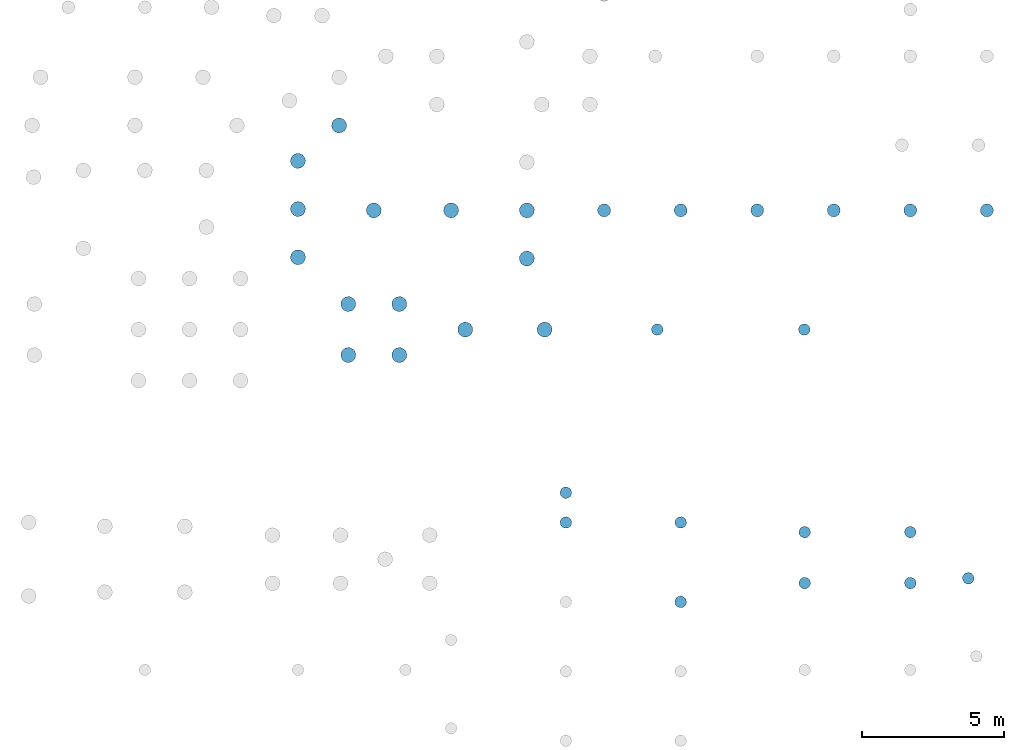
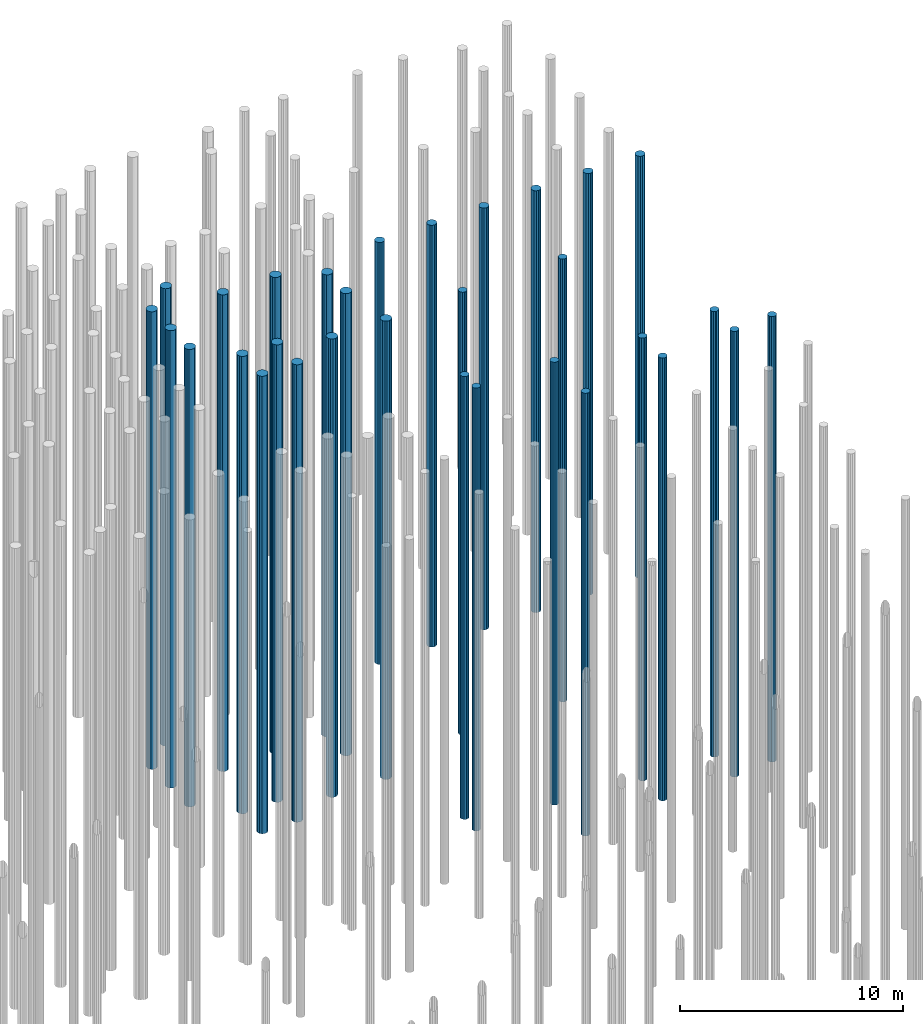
# One storey, part 18 of 20: 31 piles.
"""IFC2X3 building model written with IfcOpenShell, lengths in millimetres."""

from ifc_helpers import new_model, entity, si_unit, converted_unit, derived_unit, direction, frame, origin, place, context, subcontext, project, spatial, polyline, outline, extrude, material, element, save


model = new_model("IFC2X3")

# Units and contexts
model_context = context("Model", 3, precision=0.01, world=origin(), true_north=direction((6.12303176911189e-17, 1.0)))
body_context = subcontext(model_context, "Body", "Model", "MODEL_VIEW")
ifc_project = project(units=[si_unit("LENGTHUNIT", "METRE", prefix="MILLI"), si_unit("AREAUNIT", "SQUARE_METRE"), si_unit("VOLUMEUNIT", "CUBIC_METRE"), converted_unit("PLANEANGLEUNIT", "DEGREE", entity("IfcRatioMeasure", 0.0174532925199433), si_unit("PLANEANGLEUNIT", "RADIAN"), dimensions=[0, 0, 0, 0, 0, 0, 0]), si_unit("MASSUNIT", "GRAM", prefix="KILO"), derived_unit("MASSDENSITYUNIT", [(si_unit("MASSUNIT", "GRAM", prefix="KILO"), 1), (si_unit("LENGTHUNIT", "METRE"), -3)]), si_unit("TIMEUNIT", "SECOND"), si_unit("FREQUENCYUNIT", "HERTZ"), si_unit("THERMODYNAMICTEMPERATUREUNIT", "DEGREE_CELSIUS"), derived_unit("THERMALTRANSMITTANCEUNIT", [(si_unit("MASSUNIT", "GRAM", prefix="KILO"), 1), (si_unit("THERMODYNAMICTEMPERATUREUNIT", "KELVIN"), -1), (si_unit("TIMEUNIT", "SECOND"), -3)]), derived_unit("VOLUMETRICFLOWRATEUNIT", [(si_unit("LENGTHUNIT", "METRE"), 3), (si_unit("TIMEUNIT", "SECOND"), -1)]), si_unit("ELECTRICCURRENTUNIT", "AMPERE"), si_unit("ELECTRICVOLTAGEUNIT", "VOLT"), si_unit("POWERUNIT", "WATT"), si_unit("FORCEUNIT", "NEWTON", prefix="KILO"), si_unit("ILLUMINANCEUNIT", "LUX"), si_unit("LUMINOUSFLUXUNIT", "LUMEN"), si_unit("LUMINOUSINTENSITYUNIT", "CANDELA"), derived_unit("USERDEFINED", [(si_unit("MASSUNIT", "GRAM", prefix="KILO"), -1), (si_unit("LENGTHUNIT", "METRE"), -2), (si_unit("TIMEUNIT", "SECOND"), 3), (si_unit("LUMINOUSFLUXUNIT", "LUMEN"), 1)]), derived_unit("LINEARVELOCITYUNIT", [(si_unit("LENGTHUNIT", "METRE"), 1), (si_unit("TIMEUNIT", "SECOND"), -1)]), si_unit("PRESSUREUNIT", "PASCAL"), derived_unit("USERDEFINED", [(si_unit("LENGTHUNIT", "METRE"), -2), (si_unit("MASSUNIT", "GRAM", prefix="KILO"), 1), (si_unit("TIMEUNIT", "SECOND"), -2)])], contexts=[model_context])

# Site, building, storey
site_placement = place(None, origin())
site = spatial("IfcSite", under=ifc_project, at=site_placement, Name="Default", CompositionType="ELEMENT")
building_placement = place(site_placement, origin())
building = spatial("IfcBuilding", under=site, at=building_placement, Name="niet gebruiken", CompositionType="ELEMENT")
storey_placement = place(building_placement, frame((0.0, 0.0, -4000.0)))
storey = spatial("IfcBuildingStorey", under=building, at=storey_placement, Name="Level t.b.v. palenplan", CompositionType="ELEMENT", Elevation=-4000.0)

# Piles
ifc_material = material(Name="NLRS_f2_beton ihwg")
pile_1_placement = place(storey_placement, origin())
element("IfcPile", 1, at=pile_1_placement, inside=storey, material=ifc_material, Name="NLRS_17.12_SFO_TLB_funderingspaal grondverdringend_gen:Fundex_r530/650", ObjectType="NLRS_17.12_SFO_TLB_funderingspaal grondverdringend_gen:Fundex_r530/650", context=body_context, shape_type="SweptSolid", body=[
    extrude(outline(polyline([(-55.0965980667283, -259.209114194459), (55.0965980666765, -259.209114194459), (155.763091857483, -214.389503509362), (229.496732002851, -132.500000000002), (263.548302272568, -27.7000427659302), (252.029976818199, 81.8895035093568), (196.933378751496, 177.319610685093), (107.785210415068, 242.089546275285), (55.0965980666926, 259.209114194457), (-55.0965980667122, 259.209114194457), (-155.763091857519, 214.38950350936), (-229.496732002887, 132.5), (-263.548302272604, 27.700042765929), (-252.029976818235, -81.889503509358), (-196.933378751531, -177.319610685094), (-107.785210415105, -242.08954627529), (-55.0965980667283, -259.209114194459)])), frame((98975.0, 36081.0, -23100.0), z_axis=(0.0, 0.0, 1.0), x_axis=(-0.978147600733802, -0.207911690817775, 0.0)), (0.0, 0.0, 1.0), 25070.0),
])
pile_2_placement = place(storey_placement, origin())
element("IfcPile", 2, at=pile_2_placement, inside=storey, material=ifc_material, Name="NLRS_17.12_SFO_TLB_funderingspaal grondverdringend_gen:Fundex_r530/650", ObjectType="NLRS_17.12_SFO_TLB_funderingspaal grondverdringend_gen:Fundex_r530/650", context=body_context, shape_type="SweptSolid", body=[
    extrude(outline(polyline([(-55.0965980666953, -259.20911419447), (55.0965980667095, -259.20911419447), (155.763091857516, -214.389503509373), (229.496732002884, -132.500000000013), (263.548302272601, -27.7000427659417), (252.029976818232, 81.8895035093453), (196.933378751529, 177.319610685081), (107.785210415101, 242.089546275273), (55.0965980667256, 259.209114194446), (-55.0965980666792, 259.209114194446), (-155.763091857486, 214.389503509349), (-229.496732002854, 132.499999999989), (-263.548302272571, 27.7000427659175), (-252.029976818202, -81.8895035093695), (-196.933378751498, -177.319610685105), (-107.785210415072, -242.089546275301), (-55.0965980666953, -259.20911419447)])), frame((98975.0, 37881.0, -23100.0), z_axis=(0.0, 0.0, 1.0), x_axis=(-0.978147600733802, -0.207911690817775, 0.0)), (0.0, 0.0, 1.0), 25070.0),
])
pile_3_placement = place(storey_placement, origin())
element("IfcPile", 3, at=pile_3_placement, inside=storey, material=ifc_material, Name="NLRS_17.12_SFO_TLB_funderingspaal grondverdringend_gen:Fundex_r530/650", ObjectType="NLRS_17.12_SFO_TLB_funderingspaal grondverdringend_gen:Fundex_r530/650", context=body_context, shape_type="SweptSolid", body=[
    extrude(outline(polyline([(-55.0965980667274, -259.209114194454), (55.0965980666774, -259.209114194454), (155.763091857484, -214.389503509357), (229.496732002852, -132.499999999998), (263.548302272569, -27.700042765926), (252.0299768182, 81.889503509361), (196.933378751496, 177.319610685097), (107.785210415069, 242.089546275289), (55.0965980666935, 259.209114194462), (-55.0965980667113, 259.209114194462), (-155.763091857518, 214.389503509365), (-229.496732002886, 132.500000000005), (-263.548302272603, 27.7000427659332), (-252.029976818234, -81.8895035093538), (-196.93337875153, -177.31961068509), (-107.785210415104, -242.089546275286), (-55.0965980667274, -259.209114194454)])), frame((100775.0, 37881.0, -23100.0), z_axis=(0.0, 0.0, 1.0), x_axis=(-0.978147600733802, -0.207911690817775, 0.0)), (0.0, 0.0, 1.0), 25070.0),
])
pile_4_placement = place(storey_placement, origin())
element("IfcPile", 4, at=pile_4_placement, inside=storey, material=ifc_material, Name="NLRS_17.12_SFO_TLB_funderingspaal grondverdringend_gen:Fundex_r530/650", ObjectType="NLRS_17.12_SFO_TLB_funderingspaal grondverdringend_gen:Fundex_r530/650", context=body_context, shape_type="SweptSolid", body=[
    extrude(outline(polyline([(-55.0965980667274, -259.209114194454), (55.0965980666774, -259.209114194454), (155.763091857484, -214.389503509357), (229.496732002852, -132.499999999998), (263.548302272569, -27.700042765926), (252.0299768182, 81.889503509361), (196.933378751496, 177.319610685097), (107.785210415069, 242.089546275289), (55.0965980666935, 259.209114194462), (-55.0965980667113, 259.209114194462), (-155.763091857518, 214.389503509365), (-229.496732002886, 132.500000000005), (-263.548302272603, 27.7000427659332), (-252.029976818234, -81.8895035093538), (-196.93337875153, -177.31961068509), (-107.785210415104, -242.089546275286), (-55.0965980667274, -259.209114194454)])), frame((100775.0, 36081.0, -23100.0), z_axis=(0.0, 0.0, 1.0), x_axis=(-0.978147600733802, -0.207911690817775, 0.0)), (0.0, 0.0, 1.0), 25070.0),
])
pile_5_placement = place(storey_placement, origin())
element("IfcPile", 5, at=pile_5_placement, inside=storey, material=ifc_material, Name="NLRS_17.12_SFO_TLB_funderingspaal grondverdringend_gen:Fundex_r530/650", ObjectType="NLRS_17.12_SFO_TLB_funderingspaal grondverdringend_gen:Fundex_r530/650", context=body_context, shape_type="SweptSolid", body=[
    extrude(outline(polyline([(-55.0965980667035, -259.20911419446), (55.0965980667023, -259.20911419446), (155.76309185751, -214.389503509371), (229.49673200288, -132.500000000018), (263.548302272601, -27.7000427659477), (252.029976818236, 81.8895035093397), (196.933378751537, 177.319610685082), (107.785210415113, 242.089546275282), (55.0965980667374, 259.209114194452), (-55.0965980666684, 259.209114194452), (-155.763091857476, 214.389503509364), (-229.496732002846, 132.500000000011), (-263.548302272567, 27.7000427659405), (-252.029976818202, -81.8895035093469), (-196.933378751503, -177.319610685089), (-107.785210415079, -242.089546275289), (-55.0965980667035, -259.20911419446)])), frame((97200.0, 39531.0, -23100.0), z_axis=(0.0, 0.0, 1.0), x_axis=(-0.978147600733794, -0.207911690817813, 0.0)), (0.0, 0.0, 1.0), 25070.0),
])
pile_6_placement = place(storey_placement, origin())
element("IfcPile", 6, at=pile_6_placement, inside=storey, material=ifc_material, Name="NLRS_17.12_SFO_TLB_funderingspaal grondverdringend_gen:Fundex_r530/650", ObjectType="NLRS_17.12_SFO_TLB_funderingspaal grondverdringend_gen:Fundex_r530/650", context=body_context, shape_type="SweptSolid", body=[
    extrude(outline(polyline([(-55.0965980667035, -259.20911419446), (55.0965980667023, -259.20911419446), (155.76309185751, -214.389503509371), (229.49673200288, -132.500000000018), (263.548302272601, -27.7000427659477), (252.029976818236, 81.8895035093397), (196.933378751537, 177.319610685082), (107.785210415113, 242.089546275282), (55.0965980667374, 259.209114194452), (-55.0965980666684, 259.209114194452), (-155.763091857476, 214.389503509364), (-229.496732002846, 132.500000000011), (-263.548302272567, 27.7000427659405), (-252.029976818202, -81.8895035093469), (-196.933378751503, -177.319610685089), (-107.785210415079, -242.089546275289), (-55.0965980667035, -259.20911419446)])), frame((97200.0, 41231.0, -23100.0), z_axis=(0.0, 0.0, 1.0), x_axis=(-0.978147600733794, -0.207911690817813, 0.0)), (0.0, 0.0, 1.0), 25070.0),
])
pile_7_placement = place(storey_placement, origin())
element("IfcPile", 7, at=pile_7_placement, inside=storey, material=ifc_material, Name="NLRS_17.12_SFO_TLB_funderingspaal grondverdringend_gen:Fundex_r530/650", ObjectType="NLRS_17.12_SFO_TLB_funderingspaal grondverdringend_gen:Fundex_r530/650", context=body_context, shape_type="SweptSolid", body=[
    extrude(outline(polyline([(-55.0965980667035, -259.20911419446), (55.0965980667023, -259.20911419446), (155.76309185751, -214.389503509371), (229.49673200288, -132.500000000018), (263.548302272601, -27.7000427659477), (252.029976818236, 81.8895035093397), (196.933378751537, 177.319610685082), (107.785210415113, 242.089546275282), (55.0965980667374, 259.209114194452), (-55.0965980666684, 259.209114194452), (-155.763091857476, 214.389503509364), (-229.496732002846, 132.500000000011), (-263.548302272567, 27.7000427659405), (-252.029976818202, -81.8895035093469), (-196.933378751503, -177.319610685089), (-107.785210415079, -242.089546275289), (-55.0965980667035, -259.20911419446)])), frame((97200.0, 42931.0, -23100.0), z_axis=(0.0, 0.0, 1.0), x_axis=(-0.978147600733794, -0.207911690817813, 0.0)), (0.0, 0.0, 1.0), 25070.0),
])
pile_8_placement = place(storey_placement, origin())
element("IfcPile", 8, at=pile_8_placement, inside=storey, material=ifc_material, Name="NLRS_17.12_SFO_TLB_funderingspaal grondverdringend_gen:Fundex_r530/650", ObjectType="NLRS_17.12_SFO_TLB_funderingspaal grondverdringend_gen:Fundex_r530/650", context=body_context, shape_type="SweptSolid", body=[
    extrude(outline(polyline([(-55.0965980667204, -259.209114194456), (55.0965980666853, -259.209114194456), (155.763091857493, -214.389503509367), (229.496732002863, -132.500000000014), (263.548302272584, -27.7000427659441), (252.029976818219, 81.8895035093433), (196.93337875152, 177.319610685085), (107.785210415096, 242.089546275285), (55.0965980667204, 259.209114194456), (-55.0965980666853, 259.209114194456), (-155.763091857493, 214.389503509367), (-229.496732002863, 132.500000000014), (-263.548302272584, 27.7000427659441), (-252.029976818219, -81.8895035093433), (-196.93337875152, -177.319610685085), (-107.785210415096, -242.089546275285), (-55.0965980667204, -259.209114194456)])), frame((98650.0, 44181.0, -23100.0), z_axis=(0.0, 0.0, 1.0), x_axis=(-0.978147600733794, -0.207911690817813, 0.0)), (0.0, 0.0, 1.0), 25070.0),
])
pile_9_placement = place(storey_placement, origin())
element("IfcPile", 9, at=pile_9_placement, inside=storey, material=ifc_material, Name="NLRS_17.12_SFO_TLB_funderingspaal grondverdringend_gen:Fundex_r530/650", ObjectType="NLRS_17.12_SFO_TLB_funderingspaal grondverdringend_gen:Fundex_r530/650", context=body_context, shape_type="SweptSolid", body=[
    extrude(outline(polyline([(-55.0965980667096, -259.209114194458), (55.0965980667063, -259.209114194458), (155.763091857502, -214.38950350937), (229.496732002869, -132.500000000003), (263.548302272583, -27.7000427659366), (252.029976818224, 81.8895035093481), (196.93337875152, 177.319610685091), (107.785210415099, 242.08954627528), (55.0965980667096, 259.209114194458), (-55.0965980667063, 259.209114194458), (-155.763091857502, 214.38950350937), (-229.496732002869, 132.500000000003), (-263.548302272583, 27.7000427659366), (-252.029976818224, -81.8895035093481), (-196.93337875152, -177.319610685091), (-107.785210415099, -242.08954627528), (-55.0965980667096, -259.209114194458)])), frame((102600.0, 41186.0, -23100.0), z_axis=(0.0, 0.0, 1.0), x_axis=(-0.978147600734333, -0.207911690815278, 0.0)), (0.0, 0.0, 1.0), 26118.0),
])
pile_10_placement = place(storey_placement, origin())
element("IfcPile", 10, at=pile_10_placement, inside=storey, material=ifc_material, Name="NLRS_17.12_SFO_TLB_funderingspaal grondverdringend_gen:Fundex_r530/650", ObjectType="NLRS_17.12_SFO_TLB_funderingspaal grondverdringend_gen:Fundex_r530/650", context=body_context, shape_type="SweptSolid", body=[
    extrude(outline(polyline([(-55.0965980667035, -259.20911419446), (55.0965980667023, -259.20911419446), (155.76309185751, -214.389503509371), (229.49673200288, -132.500000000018), (263.548302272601, -27.7000427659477), (252.029976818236, 81.8895035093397), (196.933378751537, 177.319610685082), (107.785210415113, 242.089546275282), (55.0965980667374, 259.209114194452), (-55.0965980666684, 259.209114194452), (-155.763091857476, 214.389503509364), (-229.496732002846, 132.500000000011), (-263.548302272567, 27.7000427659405), (-252.029976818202, -81.8895035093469), (-196.933378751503, -177.319610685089), (-107.785210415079, -242.089546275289), (-55.0965980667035, -259.20911419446)])), frame((99875.0, 41186.0, -23100.0), z_axis=(0.0, 0.0, 1.0), x_axis=(-0.978147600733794, -0.207911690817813, 0.0)), (0.0, 0.0, 1.0), 26118.0),
])
pile_11_placement = place(storey_placement, origin())
element("IfcPile", 11, at=pile_11_placement, inside=storey, material=ifc_material, Name="NLRS_17.12_SFO_TLB_funderingspaal grondverdringend_gen:Fundex_r530/650", ObjectType="NLRS_17.12_SFO_TLB_funderingspaal grondverdringend_gen:Fundex_r530/650", context=body_context, shape_type="SweptSolid", body=[
    extrude(outline(polyline([(-55.0965980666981, -259.20911419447), (55.0965980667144, -259.20911419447), (155.763091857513, -214.38950350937), (229.496732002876, -132.500000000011), (263.548302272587, -27.7000427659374), (252.029976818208, 81.8895035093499), (196.9333787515, 177.319610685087), (107.785210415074, 242.089546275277), (55.0965980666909, 259.209114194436), (-55.0965980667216, 259.209114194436), (-155.763091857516, 214.389503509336), (-229.496732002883, 132.499999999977), (-263.548302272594, 27.7000427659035), (-252.029976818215, -81.8895035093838), (-196.933378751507, -177.319610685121), (-107.785210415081, -242.089546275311), (-55.0965980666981, -259.20911419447)])), frame((103100.0, 36981.0, -23100.0), z_axis=(0.0, 0.0, 1.0), x_axis=(0.207911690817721, -0.978147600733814, 0.0)), (0.0, 0.0, 1.0), 25120.0),
])
pile_12_placement = place(storey_placement, origin())
element("IfcPile", 12, at=pile_12_placement, inside=storey, material=ifc_material, Name="NLRS_17.12_SFO_TLB_funderingspaal grondverdringend_gen:Fundex_r410/500", ObjectType="NLRS_17.12_SFO_TLB_funderingspaal grondverdringend_gen:Fundex_r410/500", context=body_context, shape_type="SweptSolid", body=[
    extrude(outline(polyline([(-49.0597111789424, -199.04307257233), (49.0597111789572, -199.04307257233), (135.940144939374, -153.444703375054), (191.678329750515, -72.6940018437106), (203.505319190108, 24.7100194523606), (168.71169250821, 116.453273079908), (95.2682502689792, 181.518485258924), (49.0597111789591, 199.043072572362), (-49.0597111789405, 199.043072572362), (-135.940144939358, 153.444703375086), (-191.678329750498, 72.6940018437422), (-203.505319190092, -24.710019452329), (-168.711692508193, -116.453273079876), (-95.2682502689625, -181.518485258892), (-49.0597111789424, -199.04307257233)])), frame((115060.0, 36981.0, -22100.0), z_axis=(0.0, 0.0, 1.0), x_axis=(0.239315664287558, -0.970941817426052, 0.0)), (0.0, 0.0, 1.0), 24270.0),
])
pile_13_placement = place(storey_placement, origin())
element("IfcPile", 13, at=pile_13_placement, inside=storey, material=ifc_material, Name="NLRS_17.12_SFO_TLB_funderingspaal grondverdringend_gen:Fundex_r410/500", ObjectType="NLRS_17.12_SFO_TLB_funderingspaal grondverdringend_gen:Fundex_r410/500", context=body_context, shape_type="SweptSolid", body=[
    extrude(outline(polyline([(-49.0597111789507, -199.043072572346), (49.0597111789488, -199.043072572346), (135.940144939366, -153.44470337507), (191.678329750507, -72.6940018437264), (203.5053191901, 24.7100194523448), (168.711692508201, 116.453273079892), (95.2682502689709, 181.518485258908), (49.0597111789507, 199.043072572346), (-49.0597111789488, 199.043072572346), (-135.940144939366, 153.44470337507), (-191.678329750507, 72.6940018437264), (-203.5053191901, -24.7100194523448), (-168.711692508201, -116.453273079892), (-95.2682502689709, -181.518485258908), (-49.0597111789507, -199.043072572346)])), frame((109875.0, 36981.0, -22100.0), z_axis=(0.0, 0.0, 1.0), x_axis=(0.239315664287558, -0.970941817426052, 0.0)), (0.0, 0.0, 1.0), 24270.0),
])
pile_14_placement = place(storey_placement, origin())
element("IfcPile", 14, at=pile_14_placement, inside=storey, material=ifc_material, Name="NLRS_17.12_SFO_TLB_funderingspaal grondverdringend_gen:Fundex_r410/500", ObjectType="NLRS_17.12_SFO_TLB_funderingspaal grondverdringend_gen:Fundex_r410/500", context=body_context, shape_type="SweptSolid", body=[
    extrude(outline(polyline([(-49.0597111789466, -199.043072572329), (49.059711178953, -199.043072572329), (135.94014493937, -153.444703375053), (191.678329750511, -72.6940018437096), (203.505319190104, 24.7100194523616), (168.711692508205, 116.453273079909), (95.268250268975, 181.518485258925), (49.0597111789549, 199.043072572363), (-49.0597111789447, 199.043072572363), (-135.940144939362, 153.444703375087), (-191.678329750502, 72.6940018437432), (-203.505319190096, -24.710019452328), (-168.711692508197, -116.453273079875), (-95.2682502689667, -181.518485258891), (-49.0597111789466, -199.043072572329)])), frame((106650.0, 30176.0, -22100.0), z_axis=(0.0, 0.0, 1.0), x_axis=(0.239315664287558, -0.970941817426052, 0.0)), (0.0, 0.0, 1.0), 24270.0),
])
pile_15_placement = place(storey_placement, origin())
element("IfcPile", 15, at=pile_15_placement, inside=storey, material=ifc_material, Name="NLRS_17.12_SFO_TLB_funderingspaal grondverdringend_gen:Fundex_r410/500", ObjectType="NLRS_17.12_SFO_TLB_funderingspaal grondverdringend_gen:Fundex_r410/500", context=body_context, shape_type="SweptSolid", body=[
    extrude(outline(polyline([(-49.0597111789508, -199.043072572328), (49.0597111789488, -199.043072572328), (135.940144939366, -153.444703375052), (191.678329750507, -72.6940018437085), (203.5053191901, 24.7100194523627), (168.711692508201, 116.45327307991), (95.2682502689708, 181.518485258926), (49.0597111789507, 199.043072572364), (-49.0597111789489, 199.043072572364), (-135.940144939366, 153.444703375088), (-191.678329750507, 72.6940018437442), (-203.5053191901, -24.7100194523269), (-168.711692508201, -116.453273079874), (-95.2682502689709, -181.51848525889), (-49.0597111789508, -199.043072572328)])), frame((110700.0, 30176.0, -22100.0), z_axis=(0.0, 0.0, 1.0), x_axis=(0.239315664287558, -0.970941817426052, 0.0)), (0.0, 0.0, 1.0), 24270.0),
])
pile_16_placement = place(storey_placement, origin())
element("IfcPile", 16, at=pile_16_placement, inside=storey, material=ifc_material, Name="NLRS_17.12_SFO_TLB_funderingspaal grondverdringend_gen:Fundex_r410/500", ObjectType="NLRS_17.12_SFO_TLB_funderingspaal grondverdringend_gen:Fundex_r410/500", context=body_context, shape_type="SweptSolid", body=[
    extrude(outline(polyline([(-49.0597111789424, -199.04307257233), (49.0597111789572, -199.04307257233), (135.940144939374, -153.444703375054), (191.678329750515, -72.6940018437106), (203.505319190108, 24.7100194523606), (168.71169250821, 116.453273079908), (95.2682502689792, 181.518485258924), (49.0597111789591, 199.043072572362), (-49.0597111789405, 199.043072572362), (-135.940144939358, 153.444703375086), (-191.678329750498, 72.6940018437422), (-203.505319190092, -24.710019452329), (-168.711692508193, -116.453273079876), (-95.2682502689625, -181.518485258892), (-49.0597111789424, -199.04307257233)])), frame((110700.0, 27376.0, -22100.0), z_axis=(0.0, 0.0, 1.0), x_axis=(0.239315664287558, -0.970941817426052, 0.0)), (0.0, 0.0, 1.0), 24270.0),
])
pile_17_placement = place(storey_placement, origin())
element("IfcPile", 17, at=pile_17_placement, inside=storey, material=ifc_material, Name="NLRS_17.12_SFO_TLB_funderingspaal grondverdringend_gen:Fundex_r410/500", ObjectType="NLRS_17.12_SFO_TLB_funderingspaal grondverdringend_gen:Fundex_r410/500", context=body_context, shape_type="SweptSolid", body=[
    extrude(outline(polyline([(-49.0597111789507, -199.043072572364), (49.0597111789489, -199.043072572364), (135.940144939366, -153.444703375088), (191.678329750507, -72.6940018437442), (203.5053191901, 24.7100194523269), (168.711692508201, 116.453273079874), (95.2682502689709, 181.51848525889), (49.0597111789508, 199.043072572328), (-49.0597111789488, 199.043072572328), (-135.940144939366, 153.444703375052), (-191.678329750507, 72.6940018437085), (-203.5053191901, -24.7100194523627), (-168.711692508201, -116.45327307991), (-95.2682502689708, -181.518485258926), (-49.0597111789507, -199.043072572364)])), frame((118800.0, 28036.0, -22100.0), z_axis=(0.0, 0.0, 1.0), x_axis=(0.239315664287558, -0.970941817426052, 0.0)), (0.0, 0.0, 1.0), 24420.0),
])
pile_18_placement = place(storey_placement, origin())
element("IfcPile", 18, at=pile_18_placement, inside=storey, material=ifc_material, Name="NLRS_17.12_SFO_TLB_funderingspaal grondverdringend_gen:Fundex_r410/500", ObjectType="NLRS_17.12_SFO_TLB_funderingspaal grondverdringend_gen:Fundex_r410/500", context=body_context, shape_type="SweptSolid", body=[
    extrude(outline(polyline([(-49.0597111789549, -199.043072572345), (49.0597111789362, -199.043072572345), (135.940144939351, -153.444703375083), (191.678329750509, -72.6940018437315), (203.505319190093, 24.7100194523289), (168.711692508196, 116.453273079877), (95.2682502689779, 181.518485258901), (49.0597111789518, 199.043072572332), (-49.0597111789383, 199.043072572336), (-135.940144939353, 153.444703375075), (-191.678329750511, 72.6940018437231), (-203.505319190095, -24.7100194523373), (-168.711692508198, -116.453273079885), (-95.26825026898, -181.518485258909), (-49.0597111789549, -199.043072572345)])), frame((118800.0, 29836.0, -22100.0), z_axis=(0.0, 0.0, 1.0), x_axis=(-0.970941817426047, -0.239315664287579, 0.0)), (0.0, 0.0, 1.0), 24420.0),
])
pile_19_placement = place(storey_placement, origin())
element("IfcPile", 19, at=pile_19_placement, inside=storey, material=ifc_material, Name="NLRS_17.12_SFO_TLB_funderingspaal grondverdringend_gen:Fundex_r410/500", ObjectType="NLRS_17.12_SFO_TLB_funderingspaal grondverdringend_gen:Fundex_r410/500", context=body_context, shape_type="SweptSolid", body=[
    extrude(outline(polyline([(-49.0597111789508, -199.043072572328), (49.0597111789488, -199.043072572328), (135.940144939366, -153.444703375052), (191.678329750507, -72.6940018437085), (203.5053191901, 24.7100194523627), (168.711692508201, 116.45327307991), (95.2682502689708, 181.518485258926), (49.0597111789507, 199.043072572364), (-49.0597111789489, 199.043072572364), (-135.940144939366, 153.444703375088), (-191.678329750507, 72.6940018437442), (-203.5053191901, -24.7100194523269), (-168.711692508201, -116.453273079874), (-95.2682502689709, -181.51848525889), (-49.0597111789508, -199.043072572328)])), frame((115075.0, 28036.0, -22100.0), z_axis=(0.0, 0.0, 1.0), x_axis=(0.239315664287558, -0.970941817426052, 0.0)), (0.0, 0.0, 1.0), 24270.0),
])
pile_20_placement = place(storey_placement, origin())
element("IfcPile", 20, at=pile_20_placement, inside=storey, material=ifc_material, Name="NLRS_17.12_SFO_TLB_funderingspaal grondverdringend_gen:Fundex_r410/500", ObjectType="NLRS_17.12_SFO_TLB_funderingspaal grondverdringend_gen:Fundex_r410/500", context=body_context, shape_type="SweptSolid", body=[
    extrude(outline(polyline([(-49.0597111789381, -199.043072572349), (49.059711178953, -199.043072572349), (135.940144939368, -153.444703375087), (191.678329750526, -72.6940018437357), (203.50531919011, 24.7100194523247), (168.711692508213, 116.453273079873), (95.2682502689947, 181.518485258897), (49.0597111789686, 199.043072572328), (-49.0597111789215, 199.043072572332), (-135.940144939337, 153.444703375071), (-191.678329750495, 72.694001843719), (-203.505319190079, -24.7100194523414), (-168.711692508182, -116.45327307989), (-95.2682502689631, -181.518485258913), (-49.0597111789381, -199.043072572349)])), frame((115075.0, 29836.0, -22100.0), z_axis=(0.0, 0.0, 1.0), x_axis=(-0.970941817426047, -0.239315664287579, 0.0)), (0.0, 0.0, 1.0), 24270.0),
])
pile_21_placement = place(storey_placement, origin())
element("IfcPile", 21, at=pile_21_placement, inside=storey, material=ifc_material, Name="NLRS_17.12_SFO_TLB_funderingspaal grondverdringend_gen:Fundex_r410/500", ObjectType="NLRS_17.12_SFO_TLB_funderingspaal grondverdringend_gen:Fundex_r410/500", context=body_context, shape_type="SweptSolid", body=[
    extrude(outline(polyline([(-49.0597111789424, -199.04307257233), (49.0597111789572, -199.04307257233), (135.940144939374, -153.444703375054), (191.678329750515, -72.6940018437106), (203.505319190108, 24.7100194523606), (168.71169250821, 116.453273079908), (95.2682502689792, 181.518485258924), (49.0597111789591, 199.043072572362), (-49.0597111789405, 199.043072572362), (-135.940144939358, 153.444703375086), (-191.678329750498, 72.6940018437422), (-203.505319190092, -24.710019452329), (-168.711692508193, -116.453273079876), (-95.2682502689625, -181.518485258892), (-49.0597111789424, -199.04307257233)])), frame((120845.0, 28206.0, -22100.0), z_axis=(0.0, 0.0, 1.0), x_axis=(0.239315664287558, -0.970941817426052, 0.0)), (0.0, 0.0, 1.0), 24420.0),
])
pile_22_placement = place(storey_placement, origin())
element("IfcPile", 22, at=pile_22_placement, inside=storey, material=ifc_material, Name="NLRS_17.12_SFO_TLB_funderingspaal grondverdringend_gen:Fundex_r530/650", ObjectType="NLRS_17.12_SFO_TLB_funderingspaal grondverdringend_gen:Fundex_r530/650", context=body_context, shape_type="SweptSolid", body=[
    extrude(outline(polyline([(-55.0965980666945, -259.209114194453), (55.096598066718, -259.209114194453), (155.763091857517, -214.389503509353), (229.496732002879, -132.499999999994), (263.548302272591, -27.7000427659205), (252.029976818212, 81.8895035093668), (196.933378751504, 177.319610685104), (107.785210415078, 242.089546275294), (55.0965980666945, 259.209114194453), (-55.096598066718, 259.209114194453), (-155.763091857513, 214.389503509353), (-229.496732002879, 132.499999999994), (-263.548302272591, 27.7000427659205), (-252.029976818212, -81.8895035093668), (-196.933378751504, -177.319610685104), (-107.785210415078, -242.089546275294), (-55.0965980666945, -259.209114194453)])), frame((105900.0, 36981.0, -23100.0), z_axis=(0.0, 0.0, 1.0), x_axis=(0.207911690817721, -0.978147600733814, 0.0)), (0.0, 0.0, 1.0), 25120.0),
])
pile_23_placement = place(storey_placement, origin())
element("IfcPile", 23, at=pile_23_placement, inside=storey, material=ifc_material, Name="NLRS_17.12_SFO_TLB_funderingspaal grondverdringend_gen:Fundex_r460/560", ObjectType="NLRS_17.12_SFO_TLB_funderingspaal grondverdringend_gen:Fundex_r460/560", context=body_context, shape_type="SweptSolid", body=[
    extrude(outline(polyline([(-25.7518295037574, -228.553808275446), (25.7518295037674, -228.553808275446), (122.367377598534, -194.746565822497), (194.746565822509, -122.367377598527), (228.553808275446, -25.7518295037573), (217.093165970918, 75.9641842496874), (162.634559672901, 162.634559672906), (75.9641842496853, 217.09316597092), (25.7518295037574, 228.553808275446), (-25.7518295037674, 228.553808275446), (-122.367377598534, 194.746565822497), (-194.746565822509, 122.367377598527), (-228.553808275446, 25.7518295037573), (-217.093165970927, -75.9641842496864), (-162.634559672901, -162.634559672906), (-75.9641842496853, -217.09316597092), (-25.7518295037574, -228.553808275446)])), frame((121500.0, 41186.0, -20100.0), z_axis=(0.0, 0.0, 1.0), x_axis=(0.111964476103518, -0.993712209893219, 0.0)), (0.0, 0.0, 1.0), 23118.0),
])
pile_24_placement = place(storey_placement, origin())
element("IfcPile", 24, at=pile_24_placement, inside=storey, material=ifc_material, Name="NLRS_17.12_SFO_TLB_funderingspaal grondverdringend_gen:Fundex_r460/560", ObjectType="NLRS_17.12_SFO_TLB_funderingspaal grondverdringend_gen:Fundex_r460/560", context=body_context, shape_type="SweptSolid", body=[
    extrude(outline(polyline([(-25.7518295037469, -228.55380827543), (25.751829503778, -228.55380827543), (122.367377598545, -194.746565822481), (194.74656582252, -122.367377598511), (228.553808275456, -25.7518295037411), (217.093165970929, 75.9641842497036), (162.634559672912, 162.634559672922), (75.9641842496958, 217.093165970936), (25.751829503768, 228.553808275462), (-25.7518295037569, 228.553808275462), (-122.367377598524, 194.746565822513), (-194.746565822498, 122.367377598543), (-228.553808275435, 25.7518295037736), (-217.093165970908, -75.9641842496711), (-162.634559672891, -162.63455967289), (-75.9641842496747, -217.093165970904), (-25.7518295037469, -228.55380827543)])), frame((118800.0, 41186.0, -20100.0), z_axis=(0.0, 0.0, 1.0), x_axis=(0.111964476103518, -0.993712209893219, 0.0)), (0.0, 0.0, 1.0), 23118.0),
])
pile_25_placement = place(storey_placement, origin())
element("IfcPile", 25, at=pile_25_placement, inside=storey, material=ifc_material, Name="NLRS_17.12_SFO_TLB_funderingspaal grondverdringend_gen:Fundex_r460/560", ObjectType="NLRS_17.12_SFO_TLB_funderingspaal grondverdringend_gen:Fundex_r460/560", context=body_context, shape_type="SweptSolid", body=[
    extrude(outline(polyline([(-25.7518295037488, -228.553808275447), (25.751829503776, -228.553808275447), (122.367377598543, -194.746565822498), (194.746565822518, -122.367377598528), (228.553808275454, -25.7518295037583), (217.093165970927, 75.9641842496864), (162.63455967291, 162.634559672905), (75.9641842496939, 217.093165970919), (25.751829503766, 228.553808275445), (-25.7518295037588, 228.553808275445), (-122.367377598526, 194.746565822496), (-194.7465658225, 122.367377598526), (-228.553808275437, 25.7518295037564), (-217.093165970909, -75.9641842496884), (-162.634559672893, -162.634559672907), (-75.9641842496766, -217.093165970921), (-25.7518295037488, -228.553808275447)])), frame((116100.0, 41186.0, -20100.0), z_axis=(0.0, 0.0, 1.0), x_axis=(0.111964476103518, -0.993712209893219, 0.0)), (0.0, 0.0, 1.0), 23118.0),
])
pile_26_placement = place(storey_placement, origin())
element("IfcPile", 26, at=pile_26_placement, inside=storey, material=ifc_material, Name="NLRS_17.12_SFO_TLB_funderingspaal grondverdringend_gen:Fundex_r460/560", ObjectType="NLRS_17.12_SFO_TLB_funderingspaal grondverdringend_gen:Fundex_r460/560", context=body_context, shape_type="SweptSolid", body=[
    extrude(outline(polyline([(-25.7518295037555, -228.553808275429), (25.7518295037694, -228.553808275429), (122.367377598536, -194.74656582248), (194.746565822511, -122.36737759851), (228.553808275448, -25.7518295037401), (217.09316597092, 75.9641842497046), (162.634559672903, 162.634559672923), (75.9641842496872, 217.093165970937), (25.7518295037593, 228.553808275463), (-25.7518295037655, 228.553808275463), (-122.367377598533, 194.746565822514), (-194.746565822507, 122.367377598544), (-228.553808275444, 25.7518295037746), (-217.093165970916, -75.9641842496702), (-162.634559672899, -162.634559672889), (-75.9641842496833, -217.093165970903), (-25.7518295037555, -228.553808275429)])), frame((113400.0, 41186.0, -20100.0), z_axis=(0.0, 0.0, 1.0), x_axis=(0.111964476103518, -0.993712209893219, 0.0)), (0.0, 0.0, 1.0), 23118.0),
])
pile_27_placement = place(storey_placement, origin())
element("IfcPile", 27, at=pile_27_placement, inside=storey, material=ifc_material, Name="NLRS_17.12_SFO_TLB_funderingspaal grondverdringend_gen:Fundex_r460/560", ObjectType="NLRS_17.12_SFO_TLB_funderingspaal grondverdringend_gen:Fundex_r460/560", context=body_context, shape_type="SweptSolid", body=[
    extrude(outline(polyline([(-25.7518295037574, -228.553808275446), (25.7518295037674, -228.553808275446), (122.367377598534, -194.746565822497), (194.746565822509, -122.367377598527), (228.553808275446, -25.7518295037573), (217.093165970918, 75.9641842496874), (162.634559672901, 162.634559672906), (75.9641842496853, 217.09316597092), (25.7518295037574, 228.553808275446), (-25.7518295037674, 228.553808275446), (-122.367377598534, 194.746565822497), (-194.746565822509, 122.367377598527), (-228.553808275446, 25.7518295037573), (-217.093165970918, -75.9641842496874), (-162.634559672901, -162.634559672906), (-75.9641842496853, -217.09316597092), (-25.7518295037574, -228.553808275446)])), frame((110700.0, 41186.0, -20100.0), z_axis=(0.0, 0.0, 1.0), x_axis=(0.111964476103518, -0.993712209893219, 0.0)), (0.0, 0.0, 1.0), 23118.0),
])
pile_28_placement = place(storey_placement, origin())
element("IfcPile", 28, at=pile_28_placement, inside=storey, material=ifc_material, Name="NLRS_17.12_SFO_TLB_funderingspaal grondverdringend_gen:Fundex_r460/560", ObjectType="NLRS_17.12_SFO_TLB_funderingspaal grondverdringend_gen:Fundex_r460/560", context=body_context, shape_type="SweptSolid", body=[
    extrude(outline(polyline([(-25.7518295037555, -228.553808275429), (25.7518295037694, -228.553808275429), (122.367377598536, -194.74656582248), (194.746565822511, -122.36737759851), (228.553808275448, -25.7518295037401), (217.09316597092, 75.9641842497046), (162.634559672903, 162.634559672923), (75.9641842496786, 217.093165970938), (25.7518295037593, 228.553808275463), (-25.7518295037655, 228.553808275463), (-122.367377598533, 194.746565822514), (-194.746565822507, 122.367377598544), (-228.553808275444, 25.7518295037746), (-217.093165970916, -75.9641842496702), (-162.634559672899, -162.634559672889), (-75.9641842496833, -217.093165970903), (-25.7518295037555, -228.553808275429)])), frame((108000.0, 41186.0, -20100.0), z_axis=(0.0, 0.0, 1.0), x_axis=(0.111964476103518, -0.993712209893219, 0.0)), (0.0, 0.0, 1.0), 23118.0),
])
pile_29_placement = place(storey_placement, origin())
element("IfcPile", 29, at=pile_29_placement, inside=storey, material=ifc_material, Name="NLRS_17.12_SFO_TLB_funderingspaal grondverdringend_gen:Fundex_r530/650", ObjectType="NLRS_17.12_SFO_TLB_funderingspaal grondverdringend_gen:Fundex_r530/650", context=body_context, shape_type="SweptSolid", body=[
    extrude(outline(polyline([(-55.0965980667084, -259.209114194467), (55.0965980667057, -259.209114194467), (155.763091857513, -214.389503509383), (229.496732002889, -132.500000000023), (263.548302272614, -27.7000427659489), (252.029976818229, 81.8895035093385), (196.933378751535, 177.319610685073), (107.785210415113, 242.089546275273), (55.0965980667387, 259.209114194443), (-55.0965980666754, 259.209114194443), (-155.763091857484, 214.389503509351), (-229.496732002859, 132.499999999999), (-263.548302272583, 27.7000427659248), (-252.029976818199, -81.8895035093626), (-196.933378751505, -177.319610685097), (-107.785210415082, -242.089546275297), (-55.0965980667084, -259.209114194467)])), frame((105275.0, 41186.0, -23100.0), z_axis=(0.0, 0.0, 1.0), x_axis=(-0.978147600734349, -0.207911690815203, 0.0)), (0.0, 0.0, 1.0), 25328.0),
])
pile_30_placement = place(storey_placement, origin())
element("IfcPile", 30, at=pile_30_placement, inside=storey, material=ifc_material, Name="NLRS_17.12_SFO_TLB_funderingspaal grondverdringend_gen:Fundex_r530/650", ObjectType="NLRS_17.12_SFO_TLB_funderingspaal grondverdringend_gen:Fundex_r530/650", context=body_context, shape_type="SweptSolid", body=[
    extrude(outline(polyline([(-55.0965980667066, -259.209114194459), (55.0965980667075, -259.209114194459), (155.763091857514, -214.389503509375), (229.496732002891, -132.500000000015), (263.548302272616, -27.7000427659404), (252.029976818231, 81.889503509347), (196.933378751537, 177.319610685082), (107.785210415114, 242.089546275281), (55.0965980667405, 259.209114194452), (-55.0965980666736, 259.209114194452), (-155.763091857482, 214.389503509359), (-229.496732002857, 132.500000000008), (-263.548302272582, 27.7000427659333), (-252.029976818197, -81.8895035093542), (-196.933378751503, -177.319610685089), (-107.78521041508, -242.089546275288), (-55.0965980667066, -259.209114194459)])), frame((105275.0, 39486.0, -23100.0), z_axis=(0.0, 0.0, 1.0), x_axis=(-0.978147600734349, -0.207911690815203, 0.0)), (0.0, 0.0, 1.0), 25328.0),
])
pile_31_placement = place(storey_placement, origin())
element("IfcPile", 31, at=pile_31_placement, inside=storey, material=ifc_material, Name="NLRS_17.12_SFO_TLB_funderingspaal grondverdringend_gen:Fundex_r410/500", ObjectType="NLRS_17.12_SFO_TLB_funderingspaal grondverdringend_gen:Fundex_r410/500", context=body_context, shape_type="SweptSolid", body=[
    extrude(outline(polyline([(-49.0597111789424, -199.04307257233), (49.0597111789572, -199.04307257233), (135.940144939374, -153.444703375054), (191.678329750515, -72.6940018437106), (203.505319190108, 24.7100194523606), (168.71169250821, 116.453273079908), (95.2682502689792, 181.518485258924), (49.0597111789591, 199.043072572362), (-49.0597111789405, 199.043072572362), (-135.940144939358, 153.444703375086), (-191.678329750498, 72.6940018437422), (-203.505319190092, -24.710019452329), (-168.711692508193, -116.453273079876), (-95.2682502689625, -181.518485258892), (-49.0597111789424, -199.04307257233)])), frame((106650.0, 31226.0, -22100.0), z_axis=(0.0, 0.0, 1.0), x_axis=(0.239315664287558, -0.970941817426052, 0.0)), (0.0, 0.0, 1.0), 24270.0),
])

save(model, "model.ifc")
